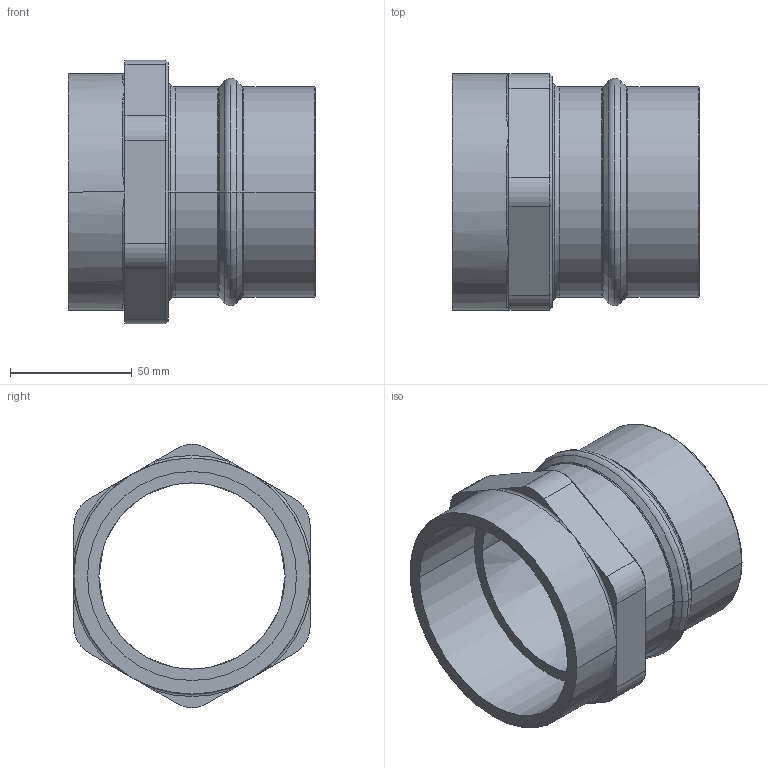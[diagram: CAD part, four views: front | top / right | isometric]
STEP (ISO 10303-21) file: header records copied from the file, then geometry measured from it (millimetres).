
FILE_DESCRIPTION((''),'2;1');
FILE_NAME('AU15771900','2017-05-16T',('Administrator'),(''),'PRO/ENGINEER BY PARAMETRIC TECHNOLOGY CORPORATION, 2009360','PRO/ENGINEER BY PARAMETRIC TECHNOLOGY CORPORATION, 2009360','');
FILE_SCHEMA(('AUTOMOTIVE_DESIGN_CC2 { 1 2 10303 214 -1 1 5 2 }'));
Length unit declared in the file: millimetre
Products named in the file (1): AU15771900
Bounding box: 101.57 x 97.02 x 108.28 mm (x, y, z)
Volume: 164250.5 mm3; surface area: 61829.6 mm2
Topology: 1 solids, 1 shells, 86 faces, 206 edges, 112 vertices
Faces by surface type: torus 26, plane 22, cylinder 14, bspline 12, cone 12
Entity records: 3256 total; most frequent: CARTESIAN_POINT 1280, DIRECTION 438, ORIENTED_EDGE 388, EDGE_CURVE 194, AXIS2_PLACEMENT_3D 182, VERTEX_POINT 112, CIRCLE 108, EDGE_LOOP 90
